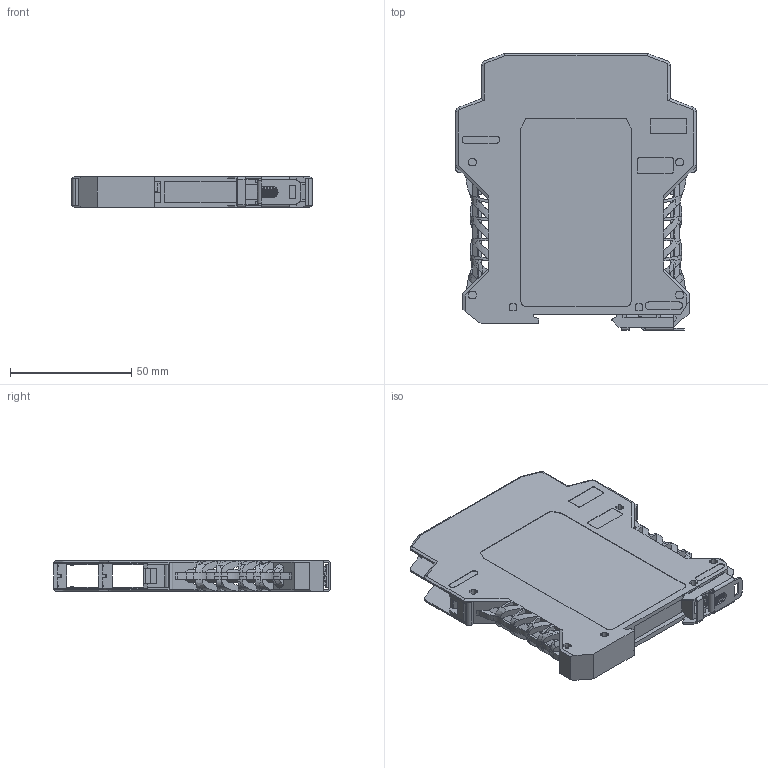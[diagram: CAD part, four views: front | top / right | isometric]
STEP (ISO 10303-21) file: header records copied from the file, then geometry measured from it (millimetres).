
FILE_DESCRIPTION(('FreeCAD Model'),'2;1');
FILE_NAME('Open CASCADE Shape Model','2023-04-20T09:18:32',('Author'),( ''),'Open CASCADE STEP processor 7.6','FreeCAD','Unknown');
FILE_SCHEMA(('AUTOMOTIVE_DESIGN { 1 0 10303 214 1 1 1 1 }'));
Products named in the file (1): CPME-DIN12,5-V
Bounding box: 99 x 114 x 12.5 mm (x, y, z)
Surface area: 51091.5 mm2 (no closed solid volume)
Topology: 0 solids, 1 shells, 2241 faces, 6583 edges, 4278 vertices
Faces by surface type: plane 1964, cylinder 220, bspline 49, cone 8
Entity records: 172394 total; most frequent: CARTESIAN_POINT 46867, DIRECTION 21567, LINE 15900, VECTOR 15900, ORIENTED_EDGE 13102, PCURVE 13102, DEFINITIONAL_REPRESENTATION 13102, EDGE_CURVE 6551
